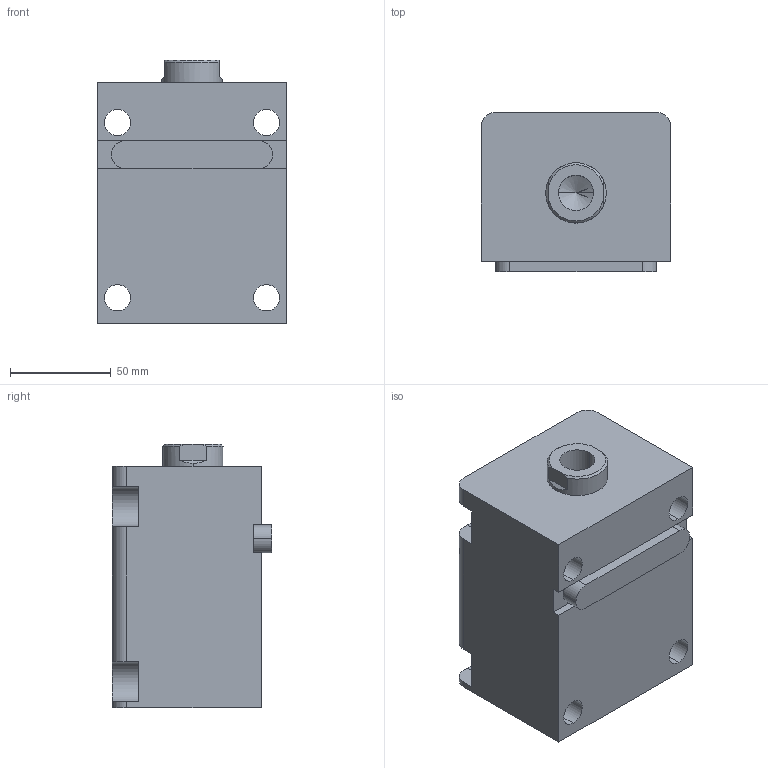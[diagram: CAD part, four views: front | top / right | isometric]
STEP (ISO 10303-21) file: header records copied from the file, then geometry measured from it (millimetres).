
FILE_DESCRIPTION (( 'STEP AP203' ), '1' );
FILE_NAME ('HTB-LA50-60N.STEP', '2019-10-09T07:11:11', ( '微软用户' ), ( '微软中国' ), 'SwSTEP 2.0', 'SolidWorks 2012', '' );
FILE_SCHEMA (( 'CONFIG_CONTROL_DESIGN' ));
Length unit declared in the file: millimetre
Products named in the file (4): HTB-LA50-60掛极; HTB-LA50-60N活塞杆; HTB-LA50-瑩; HTB-LA50-60N
Assembly tree (3 placements, depth 2):
  HTB-LA50-60N
    HTB-LA50-60掛极
    HTB-LA50-60N活塞杆
    HTB-LA50-瑩
Bounding box: 94 x 79 x 131 mm (x, y, z)
Volume: 709589.8 mm3; surface area: 105177.6 mm2
Topology: 3 solids, 3 shells, 86 faces, 213 edges, 139 vertices
Faces by surface type: plane 39, cylinder 35, cone 8, torus 4
Entity records: 3001 total; most frequent: DIRECTION 475, CARTESIAN_POINT 470, ORIENTED_EDGE 422, EDGE_CURVE 211, AXIS2_PLACEMENT_3D 180, VERTEX_POINT 139, LINE 115, VECTOR 115
